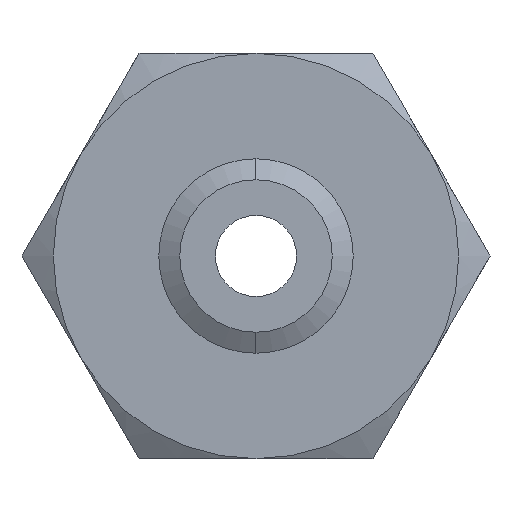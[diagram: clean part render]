
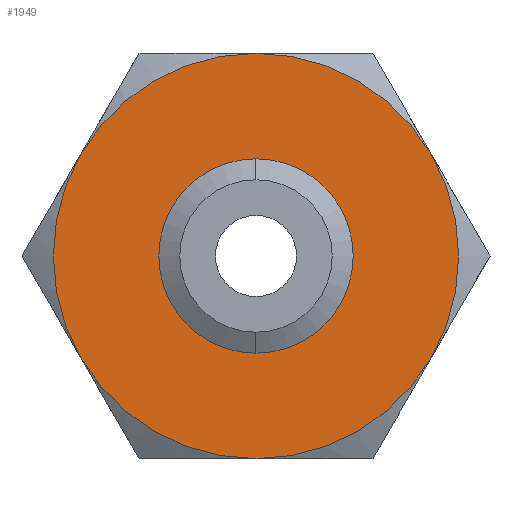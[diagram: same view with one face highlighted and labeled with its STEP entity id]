
A CAD part, front view. The second image highlights one B-rep face of the part: STEP entity #1949.
In plain terms, the highlighted planar face has unit normal (0, -1, 0).
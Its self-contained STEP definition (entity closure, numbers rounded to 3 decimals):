
#194 = EDGE_CURVE ( 'NONE', #195, #196, #584, .T. ) ;
#195 = VERTEX_POINT ( 'NONE', #579 ) ;
#196 = VERTEX_POINT ( 'NONE', #644 ) ;
#579 = CARTESIAN_POINT ( 'NONE',  ( 0., 0., -9.402 ) ) ;
#580 = DIRECTION ( 'NONE',  ( 0., 0., -1. ) ) ;
#581 = DIRECTION ( 'NONE',  ( 0., -1., 0. ) ) ;
#582 = CARTESIAN_POINT ( 'NONE',  ( 0., 0., 0. ) ) ;
#583 = AXIS2_PLACEMENT_3D ( 'NONE', #582, #581, #580 ) ;
#584 = CIRCLE ( 'NONE', #583, 9.402 ) ;
#644 = CARTESIAN_POINT ( 'NONE',  ( 0., 0., 9.402 ) ) ;
#966 = CARTESIAN_POINT ( 'NONE',  ( 21.651, 0., 12.5 ) ) ;
#967 = CARTESIAN_POINT ( 'NONE',  ( 0., 0., 25. ) ) ;
#1030 = CARTESIAN_POINT ( 'NONE',  ( -21.651, 0., -12.5 ) ) ;
#1031 = CARTESIAN_POINT ( 'NONE',  ( -21.651, 0., 12.5 ) ) ;
#1045 = DIRECTION ( 'NONE',  ( 0., 0., 1. ) ) ;
#1046 = DIRECTION ( 'NONE',  ( 0., 1., 0. ) ) ;
#1047 = CARTESIAN_POINT ( 'NONE',  ( 0., 0., 0. ) ) ;
#1048 = AXIS2_PLACEMENT_3D ( 'NONE', #1047, #1046, #1045 ) ;
#1049 = CIRCLE ( 'NONE', #1048, 25. ) ;
#1078 = DIRECTION ( 'NONE',  ( 0., 0., 1. ) ) ;
#1079 = DIRECTION ( 'NONE',  ( 0., 1., 0. ) ) ;
#1080 = CARTESIAN_POINT ( 'NONE',  ( 0., 0., 0. ) ) ;
#1081 = AXIS2_PLACEMENT_3D ( 'NONE', #1080, #1079, #1078 ) ;
#1082 = CIRCLE ( 'NONE', #1081, 25. ) ;
#1083 = CARTESIAN_POINT ( 'NONE',  ( 0., 0., -25. ) ) ;
#1084 = DIRECTION ( 'NONE',  ( 0., 0., 1. ) ) ;
#1085 = DIRECTION ( 'NONE',  ( 0., 1., 0. ) ) ;
#1086 = CARTESIAN_POINT ( 'NONE',  ( 0., 0., 0. ) ) ;
#1087 = AXIS2_PLACEMENT_3D ( 'NONE', #1086, #1085, #1084 ) ;
#1088 = CIRCLE ( 'NONE', #1087, 25. ) ;
#1089 = DIRECTION ( 'NONE',  ( 0., 0., 1. ) ) ;
#1090 = DIRECTION ( 'NONE',  ( 0., 1., 0. ) ) ;
#1091 = CARTESIAN_POINT ( 'NONE',  ( 0., 0., 0. ) ) ;
#1092 = AXIS2_PLACEMENT_3D ( 'NONE', #1091, #1090, #1089 ) ;
#1093 = CIRCLE ( 'NONE', #1092, 25. ) ;
#1312 = DIRECTION ( 'NONE',  ( 0., 0., 1. ) ) ;
#1313 = DIRECTION ( 'NONE',  ( 0., 1., 0. ) ) ;
#1314 = CARTESIAN_POINT ( 'NONE',  ( 14.434, 0., -25. ) ) ;
#1316 = AXIS2_PLACEMENT_3D ( 'NONE', #1314, #1313, #1312 ) ;
#1317 = PLANE ( 'NONE',  #1316 ) ;
#1318 = FACE_BOUND ( 'NONE', #1971, .T. ) ;
#1319 = FACE_OUTER_BOUND ( 'NONE', #1952, .T. ) ;
#1341 = CARTESIAN_POINT ( 'NONE',  ( 0., 0., 0. ) ) ;
#1342 = AXIS2_PLACEMENT_3D ( 'NONE', #1341, #1400, #1399 ) ;
#1343 = CIRCLE ( 'NONE', #1342, 25. ) ;
#1344 = DIRECTION ( 'NONE',  ( 0., 0., 1. ) ) ;
#1345 = DIRECTION ( 'NONE',  ( 0., 1., 0. ) ) ;
#1346 = CARTESIAN_POINT ( 'NONE',  ( 0., 0., 0. ) ) ;
#1347 = AXIS2_PLACEMENT_3D ( 'NONE', #1346, #1345, #1344 ) ;
#1348 = CIRCLE ( 'NONE', #1347, 25. ) ;
#1350 = DIRECTION ( 'NONE',  ( 0., 0., -1. ) ) ;
#1351 = DIRECTION ( 'NONE',  ( 0., -1., 0. ) ) ;
#1352 = CARTESIAN_POINT ( 'NONE',  ( 0., 0., 0. ) ) ;
#1353 = AXIS2_PLACEMENT_3D ( 'NONE', #1352, #1351, #1350 ) ;
#1354 = CIRCLE ( 'NONE', #1353, 9.402 ) ;
#1362 = CARTESIAN_POINT ( 'NONE',  ( 21.651, 0., -12.5 ) ) ;
#1399 = DIRECTION ( 'NONE',  ( 0., 0., 1. ) ) ;
#1400 = DIRECTION ( 'NONE',  ( 0., 1., 0. ) ) ;
#1727 = VERTEX_POINT ( 'NONE', #967 ) ;
#1729 = VERTEX_POINT ( 'NONE', #966 ) ;
#1775 = ORIENTED_EDGE ( 'NONE', *, *, #1776, .F. ) ;
#1776 = EDGE_CURVE ( 'NONE', #1782, #1727, #1049, .T. ) ;
#1782 = VERTEX_POINT ( 'NONE', #1031 ) ;
#1783 = VERTEX_POINT ( 'NONE', #1030 ) ;
#1784 = ORIENTED_EDGE ( 'NONE', *, *, #1786, .F. ) ;
#1786 = EDGE_CURVE ( 'NONE', #1783, #1782, #1093, .T. ) ;
#1787 = EDGE_CURVE ( 'NONE', #1789, #1783, #1088, .T. ) ;
#1788 = ORIENTED_EDGE ( 'NONE', *, *, #1787, .F. ) ;
#1789 = VERTEX_POINT ( 'NONE', #1083 ) ;
#1790 = EDGE_CURVE ( 'NONE', #1727, #1729, #1082, .T. ) ;
#1791 = ORIENTED_EDGE ( 'NONE', *, *, #1790, .F. ) ;
#1949 = ADVANCED_FACE ( 'NONE', ( #1319, #1318 ), #1317, .F. ) ;
#1952 = EDGE_LOOP ( 'NONE', ( #1791, #1775, #1784, #1788, #1975, #1979 ) ) ;
#1962 = VERTEX_POINT ( 'NONE', #1362 ) ;
#1969 = EDGE_CURVE ( 'NONE', #196, #195, #1354, .T. ) ;
#1970 = EDGE_CURVE ( 'NONE', #1962, #1789, #1348, .T. ) ;
#1971 = EDGE_LOOP ( 'NONE', ( #1972, #1973 ) ) ;
#1972 = ORIENTED_EDGE ( 'NONE', *, *, #194, .F. ) ;
#1973 = ORIENTED_EDGE ( 'NONE', *, *, #1969, .F. ) ;
#1975 = ORIENTED_EDGE ( 'NONE', *, *, #1970, .F. ) ;
#1977 = EDGE_CURVE ( 'NONE', #1729, #1962, #1343, .T. ) ;
#1979 = ORIENTED_EDGE ( 'NONE', *, *, #1977, .F. ) ;
